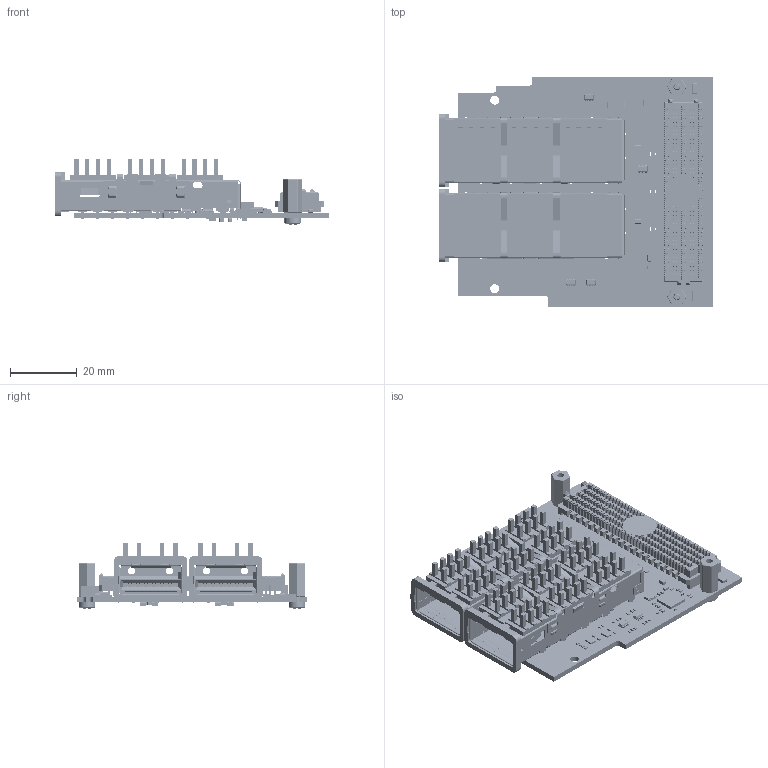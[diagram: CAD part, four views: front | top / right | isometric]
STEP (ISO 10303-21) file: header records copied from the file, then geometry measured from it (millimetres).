
FILE_DESCRIPTION(('Open CASCADE Model'),'2;1');
FILE_NAME('Open CASCADE Shape Model','2026-02-18T06:27:58',('Author'),( 'Open CASCADE'),'Open CASCADE STEP processor 7.5','Open CASCADE 7.5' ,'Unknown');
FILE_SCHEMA(('AUTOMOTIVE_DESIGN { 1 0 10303 214 1 1 1 1 }'));
Length unit declared in the file: millimetre
Products named in the file (163): PCB; Board; Open CASCADE STEP translator 7.5 1.1.1; U15; SOT-23_8; U8; U2; S6; 10294970; S5; R32; RC0402FR-07226RL; R31; R30; R24; R23; R20; R19; R18; C49; User Library-CAPC_0402; User Library-CAPC_0402_CAPC_0402_Lead_1; User Library-CAPC_0402_CAPC_0402_Body_1; C48; C39; C20; U1; 7633142928; R11; R10; R9; R8; L7; 1608-Chip Inductor; L6; L5; L4; L3; L2; J5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
Assembly tree (374 placements, depth 4):
  PCB
    Board
      Open CASCADE STEP translator 7.5 1.1.1
    U15
      SOT-23_8
    U8
      SOT-23_8
    U2
      SOT-23_8
    S6
      10294970
    S5
      10294970
    R32
      RC0402FR-07226RL
    R31
      RC0402FR-07226RL
    R30
      RC0402FR-07226RL
    R24
      RC0402FR-07226RL
    R23
      RC0402FR-07226RL
    R20
      RC0402FR-07226RL
    R19
      RC0402FR-07226RL
    R18
      RC0402FR-07226RL
    C49
      User Library-CAPC_0402
        User Library-CAPC_0402_CAPC_0402_Lead_1  x2
        User Library-CAPC_0402_CAPC_0402_Body_1
    C48
      User Library-CAPC_0402
        User Library-CAPC_0402_CAPC_0402_Lead_1  x2
        User Library-CAPC_0402_CAPC_0402_Body_1
    C39
      User Library-CAPC_0402
        User Library-CAPC_0402_CAPC_0402_Lead_1  x2
        User Library-CAPC_0402_CAPC_0402_Body_1
    C20
      User Library-CAPC_0402
        User Library-CAPC_0402_CAPC_0402_Lead_1  x2
        User Library-CAPC_0402_CAPC_0402_Body_1
    U1
      7633142928
    R11
      RC0402FR-07226RL
    R10
      RC0402FR-07226RL
    R9
      RC0402FR-07226RL
    R8
      RC0402FR-07226RL
    L7
      1608-Chip Inductor
    L6
      1608-Chip Inductor
    L5
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Bounding box: 82.27 x 69 x 19.71 mm (x, y, z)
Volume: 18634.1 mm3; surface area: 42563.4 mm2
Topology: 593 solids, 593 shells, 24625 faces, 65737 edges, 42906 vertices
Faces by surface type: plane 18314, cylinder 4762, bspline 1184, sphere 312, cone 32, torus 21
Full cylindrical faces by diameter (mm): 1.05 x24, 1.118 x1, 1.3 x2, 1.6 x4, 1.75 x3, 2.7 x4, 10.262 x1
Entity records: 516565 total; most frequent: CARTESIAN_POINT 105666, ORIENTED_EDGE 87198, DIRECTION 78810, EDGE_CURVE 43599, LINE 34520, VECTOR 34520, VERTEX_POINT 28907, AXIS2_PLACEMENT_3D 22145
